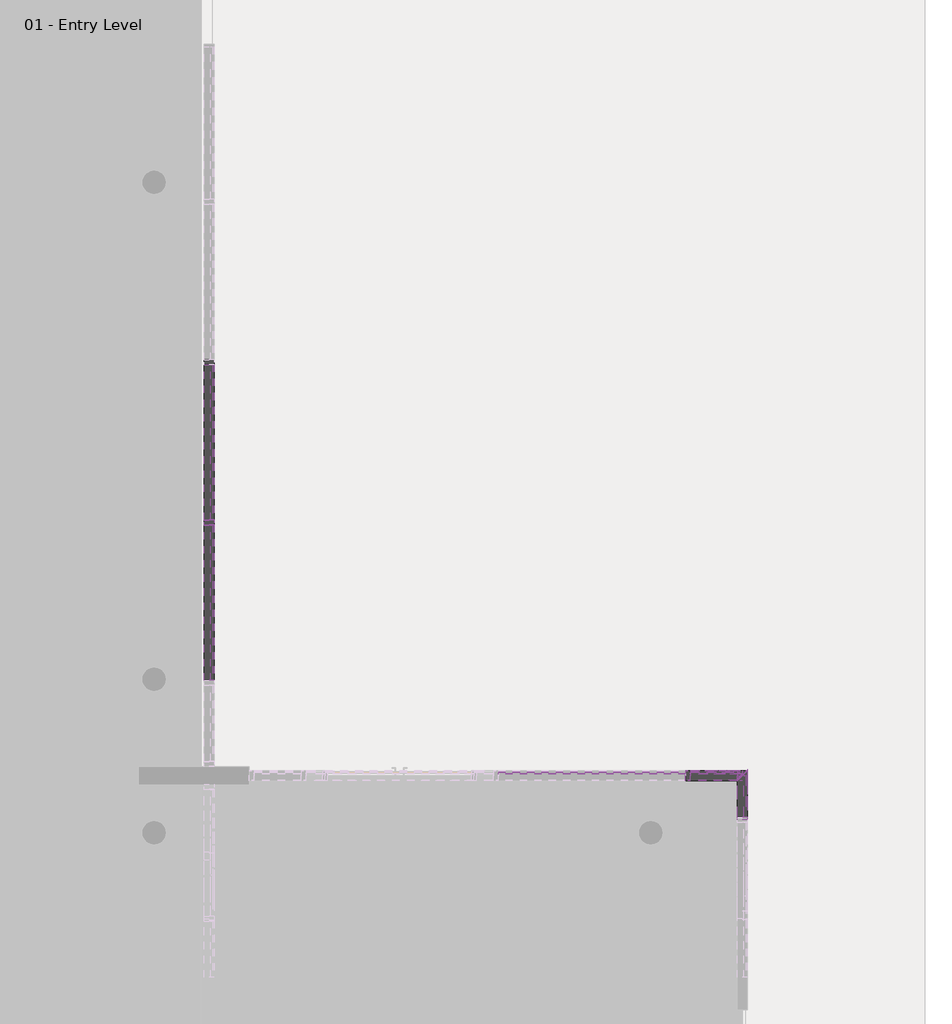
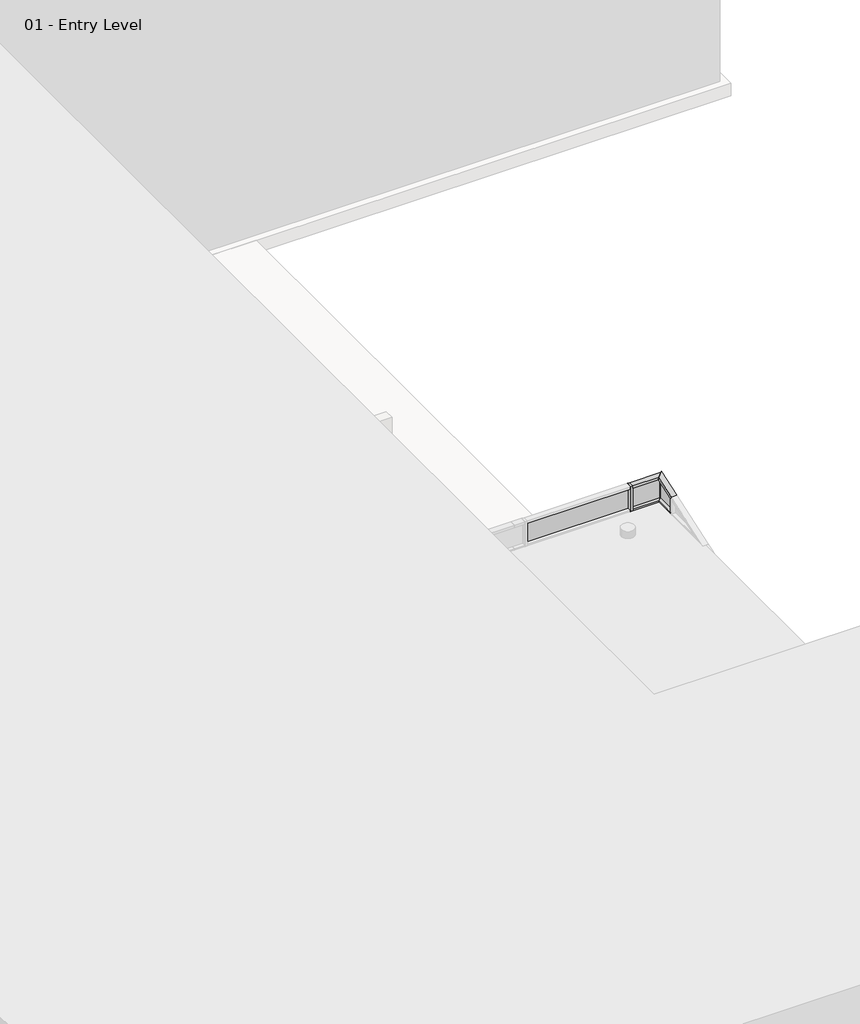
# One storey, part 17 of 34: 78 members, 48 plates.
"""IFC4 building model written with IfcOpenShell, lengths in millimetres."""

from ifc_helpers import new_model, si_unit, origin, place, context, project, spatial, transform, mapped, element, save
from components import member_2b49869a, member_391b434c, member_9e90ae50, member_6e77e263, member_b2bde9e6, member_b5354135, member_1e5b0a81, member_55448455, member_0dd9e943, member_29c8c3b8, member_f6b3c571, member_bb554449, member_5d67b9fc, member_3f1e2ae8, member_80bb9b3a, member_83c59054, system_panel_glazed_1b9d6098, system_panel_glazed_70da479d, system_panel_glazed_1068a10c, system_panel_glazed_a178916c, system_panel_glazed_ee7bb25c, system_panel_glazed_b5016a42, system_panel_glazed_300f1d59, system_panel_glazed_afefc162, system_panel_glazed_fbdf944e, system_panel_glazed_78103c7b

model = new_model("IFC4")

# Units and contexts
model_context = context("Model", 3, world=origin())
ifc_project = project(units=[si_unit("LENGTHUNIT", "METRE", prefix="MILLI")], contexts=[model_context])

# Site, building, storey
site = spatial("IfcSite", under=ifc_project)
building = spatial("IfcBuilding", under=site)
storey = spatial("IfcBuildingStorey", under=building, Name="01 - Entry Level", Elevation=0.0)

# Members
placement = place(None, origin())
member_shape = member_2b49869a(model_context)
element("IfcMember", 1, ObjectType="Rectangular Mullion : 2.5\" x 5\" rectangular", at=placement, inside=storey, context=model_context, shape_type="MappedRepresentation", body=[
    mapped(member_shape, transform((17184.0207476, 25752.35, 9753.6), x_axis=(0.0, 1.0, 0.0), y_axis=(1.0, 0.0, 0.0), z_axis=(0.0, 0.0, -1.0))),
])
member_2_shape = member_391b434c(model_context)
element("IfcMember", 2, ObjectType="Rectangular Mullion : 2.5\" x 5\" rectangular", at=placement, inside=storey, context=model_context, shape_type="MappedRepresentation", body=[
    mapped(member_2_shape, transform((17184.0207476, 25720.6, 10972.8), x_axis=(0.0, 0.0, 1.0), y_axis=(1.0, 0.0, 0.0), z_axis=(0.0, 1.0, 0.0))),
])
element("IfcMember", 3, ObjectType="Rectangular Mullion : 2.5\" x 5\" rectangular", at=placement, inside=storey, context=model_context, shape_type="MappedRepresentation", body=[
    mapped(member_2_shape, transform((17184.0207476, 27752.6, 10972.8), x_axis=(0.0, 0.0, 1.0), y_axis=(1.0, 0.0, 0.0), z_axis=(0.0, 1.0, 0.0))),
])
element("IfcMember", 4, ObjectType="Rectangular Mullion : 2.5\" x 5\" rectangular", at=placement, inside=storey, context=model_context, shape_type="MappedRepresentation", body=[
    mapped(member_2_shape, transform((17184.0207476, 25784.1, 0.0), x_axis=(0.0, 0.0, -1.0), y_axis=(1.0, 0.0, 0.0), z_axis=(0.0, -1.0, 0.0))),
])
element("IfcMember", 5, ObjectType="Rectangular Mullion : 2.5\" x 5\" rectangular", at=placement, inside=storey, context=model_context, shape_type="MappedRepresentation", body=[
    mapped(member_2_shape, transform((17184.0207476, 27816.1, 0.0), x_axis=(0.0, 0.0, -1.0), y_axis=(1.0, 0.0, 0.0), z_axis=(0.0, -1.0, 0.0))),
])
member_3_shape = member_9e90ae50(model_context)
element("IfcMember", 6, ObjectType="Rectangular Mullion : 2.5\" x 5\" rectangular", at=placement, inside=storey, context=model_context, shape_type="MappedRepresentation", body=[
    mapped(member_3_shape, transform((17184.0207476, 25720.6, 1219.2), x_axis=(0.0, 0.0, 1.0), y_axis=(1.0, 0.0, 0.0), z_axis=(0.0, 1.0, 0.0))),
])
element("IfcMember", 7, ObjectType="Rectangular Mullion : 2.5\" x 5\" rectangular", at=placement, inside=storey, context=model_context, shape_type="MappedRepresentation", body=[
    mapped(member_3_shape, transform((17184.0207476, 27752.6, 1219.2), x_axis=(0.0, 0.0, 1.0), y_axis=(1.0, 0.0, 0.0), z_axis=(0.0, 1.0, 0.0))),
])
element("IfcMember", 8, ObjectType="Rectangular Mullion : 2.5\" x 5\" rectangular", at=placement, inside=storey, context=model_context, shape_type="MappedRepresentation", body=[
    mapped(member_3_shape, transform((17184.0207476, 25720.6, 2438.4), x_axis=(0.0, 0.0, 1.0), y_axis=(1.0, 0.0, 0.0), z_axis=(0.0, 1.0, 0.0))),
])
element("IfcMember", 9, ObjectType="Rectangular Mullion : 2.5\" x 5\" rectangular", at=placement, inside=storey, context=model_context, shape_type="MappedRepresentation", body=[
    mapped(member_3_shape, transform((17184.0207476, 27752.6, 2438.4), x_axis=(0.0, 0.0, 1.0), y_axis=(1.0, 0.0, 0.0), z_axis=(0.0, 1.0, 0.0))),
])
element("IfcMember", 10, ObjectType="Rectangular Mullion : 2.5\" x 5\" rectangular", at=placement, inside=storey, context=model_context, shape_type="MappedRepresentation", body=[
    mapped(member_3_shape, transform((17184.0207476, 25720.6, 3657.6), x_axis=(0.0, 0.0, 1.0), y_axis=(1.0, 0.0, 0.0), z_axis=(0.0, 1.0, 0.0))),
])
element("IfcMember", 11, ObjectType="Rectangular Mullion : 2.5\" x 5\" rectangular", at=placement, inside=storey, context=model_context, shape_type="MappedRepresentation", body=[
    mapped(member_3_shape, transform((17184.0207476, 27752.6, 3657.6), x_axis=(0.0, 0.0, 1.0), y_axis=(1.0, 0.0, 0.0), z_axis=(0.0, 1.0, 0.0))),
])
element("IfcMember", 12, ObjectType="Rectangular Mullion : 2.5\" x 5\" rectangular", at=placement, inside=storey, context=model_context, shape_type="MappedRepresentation", body=[
    mapped(member_3_shape, transform((17184.0207476, 25720.6, 4876.8), x_axis=(0.0, 0.0, 1.0), y_axis=(1.0, 0.0, 0.0), z_axis=(0.0, 1.0, 0.0))),
])
element("IfcMember", 13, ObjectType="Rectangular Mullion : 2.5\" x 5\" rectangular", at=placement, inside=storey, context=model_context, shape_type="MappedRepresentation", body=[
    mapped(member_3_shape, transform((17184.0207476, 27752.6, 4876.8), x_axis=(0.0, 0.0, 1.0), y_axis=(1.0, 0.0, 0.0), z_axis=(0.0, 1.0, 0.0))),
])
element("IfcMember", 14, ObjectType="Rectangular Mullion : 2.5\" x 5\" rectangular", at=placement, inside=storey, context=model_context, shape_type="MappedRepresentation", body=[
    mapped(member_3_shape, transform((17184.0207476, 25720.6, 6096.0), x_axis=(0.0, 0.0, 1.0), y_axis=(1.0, 0.0, 0.0), z_axis=(0.0, 1.0, 0.0))),
])
element("IfcMember", 15, ObjectType="Rectangular Mullion : 2.5\" x 5\" rectangular", at=placement, inside=storey, context=model_context, shape_type="MappedRepresentation", body=[
    mapped(member_3_shape, transform((17184.0207476, 27752.6, 6096.0), x_axis=(0.0, 0.0, 1.0), y_axis=(1.0, 0.0, 0.0), z_axis=(0.0, 1.0, 0.0))),
])
element("IfcMember", 16, ObjectType="Rectangular Mullion : 2.5\" x 5\" rectangular", at=placement, inside=storey, context=model_context, shape_type="MappedRepresentation", body=[
    mapped(member_3_shape, transform((17184.0207476, 25720.6, 7315.2), x_axis=(0.0, 0.0, 1.0), y_axis=(1.0, 0.0, 0.0), z_axis=(0.0, 1.0, 0.0))),
])
element("IfcMember", 17, ObjectType="Rectangular Mullion : 2.5\" x 5\" rectangular", at=placement, inside=storey, context=model_context, shape_type="MappedRepresentation", body=[
    mapped(member_3_shape, transform((17184.0207476, 27752.6, 7315.2), x_axis=(0.0, 0.0, 1.0), y_axis=(1.0, 0.0, 0.0), z_axis=(0.0, 1.0, 0.0))),
])
element("IfcMember", 18, ObjectType="Rectangular Mullion : 2.5\" x 5\" rectangular", at=placement, inside=storey, context=model_context, shape_type="MappedRepresentation", body=[
    mapped(member_3_shape, transform((17184.0207476, 25720.6, 8534.4), x_axis=(0.0, 0.0, 1.0), y_axis=(1.0, 0.0, 0.0), z_axis=(0.0, 1.0, 0.0))),
])
element("IfcMember", 19, ObjectType="Rectangular Mullion : 2.5\" x 5\" rectangular", at=placement, inside=storey, context=model_context, shape_type="MappedRepresentation", body=[
    mapped(member_3_shape, transform((17184.0207476, 27752.6, 8534.4), x_axis=(0.0, 0.0, 1.0), y_axis=(1.0, 0.0, 0.0), z_axis=(0.0, 1.0, 0.0))),
])
element("IfcMember", 20, ObjectType="Rectangular Mullion : 2.5\" x 5\" rectangular", at=placement, inside=storey, context=model_context, shape_type="MappedRepresentation", body=[
    mapped(member_3_shape, transform((17184.0207476, 25720.6, 9753.6), x_axis=(0.0, 0.0, 1.0), y_axis=(1.0, 0.0, 0.0), z_axis=(0.0, 1.0, 0.0))),
])
element("IfcMember", 21, ObjectType="Rectangular Mullion : 2.5\" x 5\" rectangular", at=placement, inside=storey, context=model_context, shape_type="MappedRepresentation", body=[
    mapped(member_3_shape, transform((17184.0207476, 27752.6, 9753.6), x_axis=(0.0, 0.0, 1.0), y_axis=(1.0, 0.0, 0.0), z_axis=(0.0, 1.0, 0.0))),
])
element("IfcMember", 22, ObjectType="Rectangular Mullion : 2.5\" x 5\" rectangular", at=placement, inside=storey, context=model_context, shape_type="MappedRepresentation", body=[
    mapped(member_shape, transform((17184.0207476, 25752.35, 0.0), x_axis=(0.0, 1.0, 0.0), y_axis=(1.0, 0.0, 0.0), z_axis=(0.0, 0.0, -1.0))),
])
element("IfcMember", 23, ObjectType="Rectangular Mullion : 2.5\" x 5\" rectangular", at=placement, inside=storey, context=model_context, shape_type="MappedRepresentation", body=[
    mapped(member_shape, transform((17184.0207476, 27784.35, 0.0), x_axis=(0.0, 1.0, 0.0), y_axis=(1.0, 0.0, 0.0), z_axis=(0.0, 0.0, -1.0))),
])
element("IfcMember", 24, ObjectType="Rectangular Mullion : 2.5\" x 5\" rectangular", at=placement, inside=storey, context=model_context, shape_type="MappedRepresentation", body=[
    mapped(member_shape, transform((17184.0207476, 25752.35, 1219.2), x_axis=(0.0, 1.0, 0.0), y_axis=(1.0, 0.0, 0.0), z_axis=(0.0, 0.0, -1.0))),
])
element("IfcMember", 25, ObjectType="Rectangular Mullion : 2.5\" x 5\" rectangular", at=placement, inside=storey, context=model_context, shape_type="MappedRepresentation", body=[
    mapped(member_shape, transform((17184.0207476, 27784.35, 1219.2), x_axis=(0.0, 1.0, 0.0), y_axis=(1.0, 0.0, 0.0), z_axis=(0.0, 0.0, -1.0))),
])
element("IfcMember", 26, ObjectType="Rectangular Mullion : 2.5\" x 5\" rectangular", at=placement, inside=storey, context=model_context, shape_type="MappedRepresentation", body=[
    mapped(member_shape, transform((17184.0207476, 25752.35, 2438.4), x_axis=(0.0, 1.0, 0.0), y_axis=(1.0, 0.0, 0.0), z_axis=(0.0, 0.0, -1.0))),
])
element("IfcMember", 27, ObjectType="Rectangular Mullion : 2.5\" x 5\" rectangular", at=placement, inside=storey, context=model_context, shape_type="MappedRepresentation", body=[
    mapped(member_shape, transform((17184.0207476, 27784.35, 2438.4), x_axis=(0.0, 1.0, 0.0), y_axis=(1.0, 0.0, 0.0), z_axis=(0.0, 0.0, -1.0))),
])
element("IfcMember", 28, ObjectType="Rectangular Mullion : 2.5\" x 5\" rectangular", at=placement, inside=storey, context=model_context, shape_type="MappedRepresentation", body=[
    mapped(member_shape, transform((17184.0207476, 25752.35, 3657.6), x_axis=(0.0, 1.0, 0.0), y_axis=(1.0, 0.0, 0.0), z_axis=(0.0, 0.0, -1.0))),
])
element("IfcMember", 29, ObjectType="Rectangular Mullion : 2.5\" x 5\" rectangular", at=placement, inside=storey, context=model_context, shape_type="MappedRepresentation", body=[
    mapped(member_shape, transform((17184.0207476, 27784.35, 3657.6), x_axis=(0.0, 1.0, 0.0), y_axis=(1.0, 0.0, 0.0), z_axis=(0.0, 0.0, -1.0))),
])
element("IfcMember", 30, ObjectType="Rectangular Mullion : 2.5\" x 5\" rectangular", at=placement, inside=storey, context=model_context, shape_type="MappedRepresentation", body=[
    mapped(member_shape, transform((17184.0207476, 25752.35, 4876.8), x_axis=(0.0, 1.0, 0.0), y_axis=(1.0, 0.0, 0.0), z_axis=(0.0, 0.0, -1.0))),
])
element("IfcMember", 31, ObjectType="Rectangular Mullion : 2.5\" x 5\" rectangular", at=placement, inside=storey, context=model_context, shape_type="MappedRepresentation", body=[
    mapped(member_shape, transform((17184.0207476, 27784.35, 4876.8), x_axis=(0.0, 1.0, 0.0), y_axis=(1.0, 0.0, 0.0), z_axis=(0.0, 0.0, -1.0))),
])
element("IfcMember", 32, ObjectType="Rectangular Mullion : 2.5\" x 5\" rectangular", at=placement, inside=storey, context=model_context, shape_type="MappedRepresentation", body=[
    mapped(member_shape, transform((17184.0207476, 25752.35, 6096.0), x_axis=(0.0, 1.0, 0.0), y_axis=(1.0, 0.0, 0.0), z_axis=(0.0, 0.0, -1.0))),
])
element("IfcMember", 33, ObjectType="Rectangular Mullion : 2.5\" x 5\" rectangular", at=placement, inside=storey, context=model_context, shape_type="MappedRepresentation", body=[
    mapped(member_shape, transform((17184.0207476, 27784.35, 6096.0), x_axis=(0.0, 1.0, 0.0), y_axis=(1.0, 0.0, 0.0), z_axis=(0.0, 0.0, -1.0))),
])
element("IfcMember", 34, ObjectType="Rectangular Mullion : 2.5\" x 5\" rectangular", at=placement, inside=storey, context=model_context, shape_type="MappedRepresentation", body=[
    mapped(member_shape, transform((17184.0207476, 25752.35, 7315.2), x_axis=(0.0, 1.0, 0.0), y_axis=(1.0, 0.0, 0.0), z_axis=(0.0, 0.0, -1.0))),
])
element("IfcMember", 35, ObjectType="Rectangular Mullion : 2.5\" x 5\" rectangular", at=placement, inside=storey, context=model_context, shape_type="MappedRepresentation", body=[
    mapped(member_shape, transform((17184.0207476, 27784.35, 7315.2), x_axis=(0.0, 1.0, 0.0), y_axis=(1.0, 0.0, 0.0), z_axis=(0.0, 0.0, -1.0))),
])
element("IfcMember", 36, ObjectType="Rectangular Mullion : 2.5\" x 5\" rectangular", at=placement, inside=storey, context=model_context, shape_type="MappedRepresentation", body=[
    mapped(member_shape, transform((17184.0207476, 25752.35, 8534.4), x_axis=(0.0, 1.0, 0.0), y_axis=(1.0, 0.0, 0.0), z_axis=(0.0, 0.0, -1.0))),
])
element("IfcMember", 37, ObjectType="Rectangular Mullion : 2.5\" x 5\" rectangular", at=placement, inside=storey, context=model_context, shape_type="MappedRepresentation", body=[
    mapped(member_shape, transform((17184.0207476, 27784.35, 8534.4), x_axis=(0.0, 1.0, 0.0), y_axis=(1.0, 0.0, 0.0), z_axis=(0.0, 0.0, -1.0))),
])
member_4_shape = member_6e77e263(model_context)
element("IfcMember", 38, ObjectType="Rectangular Mullion : 2.5\" x 5\" rectangular", at=placement, inside=storey, context=model_context, shape_type="MappedRepresentation", body=[
    mapped(member_4_shape, transform((23256.3615197, 22545.6, 0.0), x_axis=(-1.0, 0.0, 0.0), y_axis=(0.0, 1.0, 0.0), z_axis=(0.0, 0.0, -1.0))),
])
element("IfcMember", 39, ObjectType="Rectangular Mullion : 2.5\" x 5\" rectangular", at=placement, inside=storey, context=model_context, shape_type="MappedRepresentation", body=[
    mapped(member_4_shape, transform((23256.3615197, 22545.6, 609.6), x_axis=(-1.0, 0.0, 0.0), y_axis=(0.0, 1.0, 0.0), z_axis=(0.0, 0.0, -1.0))),
])
element("IfcMember", 40, ObjectType="Rectangular Mullion : 2.5\" x 5\" rectangular", at=placement, inside=storey, context=model_context, shape_type="MappedRepresentation", body=[
    mapped(member_4_shape, transform((23256.3615197, 22545.6, 1219.2), x_axis=(-1.0, 0.0, 0.0), y_axis=(0.0, 1.0, 0.0), z_axis=(0.0, 0.0, -1.0))),
])
element("IfcMember", 41, ObjectType="Rectangular Mullion : 2.5\" x 5\" rectangular", at=placement, inside=storey, context=model_context, shape_type="MappedRepresentation", body=[
    mapped(member_4_shape, transform((23256.3615197, 22545.6, 2438.4), x_axis=(-1.0, 0.0, 0.0), y_axis=(0.0, 1.0, 0.0), z_axis=(0.0, 0.0, -1.0))),
])
element("IfcMember", 42, ObjectType="Rectangular Mullion : 2.5\" x 5\" rectangular", at=placement, inside=storey, context=model_context, shape_type="MappedRepresentation", body=[
    mapped(member_4_shape, transform((23256.3615197, 22545.6, 3048.0), x_axis=(-1.0, 0.0, 0.0), y_axis=(0.0, 1.0, 0.0), z_axis=(0.0, 0.0, -1.0))),
])
element("IfcMember", 43, ObjectType="Rectangular Mullion : 2.5\" x 5\" rectangular", at=placement, inside=storey, context=model_context, shape_type="MappedRepresentation", body=[
    mapped(member_4_shape, transform((23256.3615197, 22545.6, 3657.6), x_axis=(-1.0, 0.0, 0.0), y_axis=(0.0, 1.0, 0.0), z_axis=(0.0, 0.0, -1.0))),
])
element("IfcMember", 44, ObjectType="Rectangular Mullion : 2.5\" x 5\" rectangular", at=placement, inside=storey, context=model_context, shape_type="MappedRepresentation", body=[
    mapped(member_4_shape, transform((23256.3615197, 22545.6, 4267.2), x_axis=(-1.0, 0.0, 0.0), y_axis=(0.0, 1.0, 0.0), z_axis=(0.0, 0.0, -1.0))),
])
element("IfcMember", 45, ObjectType="Rectangular Mullion : 2.5\" x 5\" rectangular", at=placement, inside=storey, context=model_context, shape_type="MappedRepresentation", body=[
    mapped(member_4_shape, transform((23256.3615197, 22545.6, 4876.8), x_axis=(-1.0, 0.0, 0.0), y_axis=(0.0, 1.0, 0.0), z_axis=(0.0, 0.0, -1.0))),
])
element("IfcMember", 46, ObjectType="Rectangular Mullion : 2.5\" x 5\" rectangular", at=placement, inside=storey, context=model_context, shape_type="MappedRepresentation", body=[
    mapped(member_4_shape, transform((23256.3615197, 22545.6, 5486.4), x_axis=(-1.0, 0.0, 0.0), y_axis=(0.0, 1.0, 0.0), z_axis=(0.0, 0.0, -1.0))),
])
element("IfcMember", 47, ObjectType="Rectangular Mullion : 2.5\" x 5\" rectangular", at=placement, inside=storey, context=model_context, shape_type="MappedRepresentation", body=[
    mapped(member_4_shape, transform((23256.3615197, 22545.6, 6096.0), x_axis=(-1.0, 0.0, 0.0), y_axis=(0.0, 1.0, 0.0), z_axis=(0.0, 0.0, -1.0))),
])
member_5_shape = member_b2bde9e6(model_context)
element("IfcMember", 48, ObjectType="Rectangular Mullion : 2.5\" x 5\" rectangular", at=placement, inside=storey, context=model_context, shape_type="MappedRepresentation", body=[
    mapped(member_5_shape, transform((23224.6115197, 22545.6, 0.0), x_axis=(0.0, 0.0, -1.0), y_axis=(0.0, 1.0, 0.0), z_axis=(1.0, 0.0, 0.0))),
])
member_6_shape = member_b5354135(model_context)
element("IfcMember", 49, ObjectType="Rectangular Mullion : 2.5\" x 5\" rectangular", at=placement, inside=storey, context=model_context, shape_type="MappedRepresentation", body=[
    mapped(member_6_shape, transform((23288.1115197, 22545.6, 1828.8), x_axis=(0.0, 0.0, 1.0), y_axis=(0.0, 1.0, 0.0), z_axis=(-1.0, 0.0, 0.0))),
])
element("IfcMember", 50, ObjectType="Rectangular Mullion : 2.5\" x 5\" rectangular", at=placement, inside=storey, context=model_context, shape_type="MappedRepresentation", body=[
    mapped(member_4_shape, transform((23256.3615197, 22545.6, 6705.6), x_axis=(-1.0, 0.0, 0.0), y_axis=(0.0, 1.0, 0.0), z_axis=(0.0, 0.0, -1.0))),
])
member_7_shape = member_1e5b0a81(model_context)
element("IfcMember", 51, ObjectType="Rectangular Mullion : 2.5\" x 5\" rectangular", at=placement, inside=storey, context=model_context, shape_type="MappedRepresentation", body=[
    mapped(member_7_shape, transform((23947.0115197, 22545.6, 0.0), x_axis=(0.0, 0.0, -1.0), y_axis=(0.0, 1.0, 0.0), z_axis=(1.0, 0.0, 0.0))),
])
member_8_shape = member_55448455(model_context)
element("IfcMember", 52, ObjectType="Rectangular Mullion : 2.5\" x 5\" rectangular", at=placement, inside=storey, context=model_context, shape_type="MappedRepresentation", body=[
    mapped(member_8_shape, transform((23947.0115197, 22018.55, 0.0), x_axis=(0.0, 0.0, -1.0), y_axis=(1.0, 0.0, 0.0), z_axis=(0.0, -1.0, 0.0))),
])
member_9_shape = member_0dd9e943(model_context)
element("IfcMember", 53, ObjectType="Rectangular Mullion : 2.5\" x 5\" rectangular", at=placement, inside=storey, context=model_context, shape_type="MappedRepresentation", body=[
    mapped(member_9_shape, transform((23288.1115197, 22545.6, 7315.2), x_axis=(0.0, 0.0, 1.0), y_axis=(0.0, 1.0, 0.0), z_axis=(-1.0, 0.0, 0.0))),
])
member_10_shape = member_29c8c3b8(model_context)
element("IfcMember", 54, ObjectType="Rectangular Mullion : 2.5\" x 5\" rectangular", at=placement, inside=storey, context=model_context, shape_type="MappedRepresentation", body=[
    mapped(member_10_shape, transform((23947.0115197, 22545.6, 7315.2), x_axis=(0.0, -0.31622776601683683, 0.9486832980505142), y_axis=(1.0, 0.0, 0.0), z_axis=(0.0, 0.9486832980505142, 0.31622776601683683))),
])
member_11_shape = member_f6b3c571(model_context)
element("IfcMember", 55, ObjectType="Rectangular Mullion : 2.5\" x 5\" rectangular", at=placement, inside=storey, context=model_context, shape_type="MappedRepresentation", body=[
    mapped(member_11_shape, transform((23288.1115197, 22545.6, 609.6), x_axis=(0.0, 0.0, 1.0), y_axis=(0.0, 1.0, 0.0), z_axis=(-1.0, 0.0, 0.0))),
])
element("IfcMember", 56, ObjectType="Rectangular Mullion : 2.5\" x 5\" rectangular", at=placement, inside=storey, context=model_context, shape_type="MappedRepresentation", body=[
    mapped(member_11_shape, transform((23288.1115197, 22545.6, 1219.2), x_axis=(0.0, 0.0, 1.0), y_axis=(0.0, 1.0, 0.0), z_axis=(-1.0, 0.0, 0.0))),
])
element("IfcMember", 57, ObjectType="Rectangular Mullion : 2.5\" x 5\" rectangular", at=placement, inside=storey, context=model_context, shape_type="MappedRepresentation", body=[
    mapped(member_11_shape, transform((23288.1115197, 22545.6, 2438.4), x_axis=(0.0, 0.0, 1.0), y_axis=(0.0, 1.0, 0.0), z_axis=(-1.0, 0.0, 0.0))),
])
element("IfcMember", 58, ObjectType="Rectangular Mullion : 2.5\" x 5\" rectangular", at=placement, inside=storey, context=model_context, shape_type="MappedRepresentation", body=[
    mapped(member_11_shape, transform((23288.1115197, 22545.6, 3048.0), x_axis=(0.0, 0.0, 1.0), y_axis=(0.0, 1.0, 0.0), z_axis=(-1.0, 0.0, 0.0))),
])
element("IfcMember", 59, ObjectType="Rectangular Mullion : 2.5\" x 5\" rectangular", at=placement, inside=storey, context=model_context, shape_type="MappedRepresentation", body=[
    mapped(member_11_shape, transform((23288.1115197, 22545.6, 3657.6), x_axis=(0.0, 0.0, 1.0), y_axis=(0.0, 1.0, 0.0), z_axis=(-1.0, 0.0, 0.0))),
])
element("IfcMember", 60, ObjectType="Rectangular Mullion : 2.5\" x 5\" rectangular", at=placement, inside=storey, context=model_context, shape_type="MappedRepresentation", body=[
    mapped(member_11_shape, transform((23288.1115197, 22545.6, 4267.2), x_axis=(0.0, 0.0, 1.0), y_axis=(0.0, 1.0, 0.0), z_axis=(-1.0, 0.0, 0.0))),
])
element("IfcMember", 61, ObjectType="Rectangular Mullion : 2.5\" x 5\" rectangular", at=placement, inside=storey, context=model_context, shape_type="MappedRepresentation", body=[
    mapped(member_11_shape, transform((23288.1115197, 22545.6, 4876.8), x_axis=(0.0, 0.0, 1.0), y_axis=(0.0, 1.0, 0.0), z_axis=(-1.0, 0.0, 0.0))),
])
element("IfcMember", 62, ObjectType="Rectangular Mullion : 2.5\" x 5\" rectangular", at=placement, inside=storey, context=model_context, shape_type="MappedRepresentation", body=[
    mapped(member_11_shape, transform((23288.1115197, 22545.6, 5486.4), x_axis=(0.0, 0.0, 1.0), y_axis=(0.0, 1.0, 0.0), z_axis=(-1.0, 0.0, 0.0))),
])
element("IfcMember", 63, ObjectType="Rectangular Mullion : 2.5\" x 5\" rectangular", at=placement, inside=storey, context=model_context, shape_type="MappedRepresentation", body=[
    mapped(member_11_shape, transform((23288.1115197, 22545.6, 6096.0), x_axis=(0.0, 0.0, 1.0), y_axis=(0.0, 1.0, 0.0), z_axis=(-1.0, 0.0, 0.0))),
])
element("IfcMember", 64, ObjectType="Rectangular Mullion : 2.5\" x 5\" rectangular", at=placement, inside=storey, context=model_context, shape_type="MappedRepresentation", body=[
    mapped(member_11_shape, transform((23288.1115197, 22545.6, 6705.6), x_axis=(0.0, 0.0, 1.0), y_axis=(0.0, 1.0, 0.0), z_axis=(-1.0, 0.0, 0.0))),
])
member_12_shape = member_bb554449(model_context)
element("IfcMember", 65, ObjectType="Rectangular Mullion : 2.5\" x 5\" rectangular", at=placement, inside=storey, context=model_context, shape_type="MappedRepresentation", body=[
    mapped(member_12_shape, transform((23947.0115197, 22545.6, 609.6), x_axis=(0.0, 0.0, 1.0), y_axis=(1.0, 0.0, 0.0), z_axis=(0.0, 1.0, 0.0))),
])
element("IfcMember", 66, ObjectType="Rectangular Mullion : 2.5\" x 5\" rectangular", at=placement, inside=storey, context=model_context, shape_type="MappedRepresentation", body=[
    mapped(member_12_shape, transform((23947.0115197, 22545.6, 1219.2), x_axis=(0.0, 0.0, 1.0), y_axis=(1.0, 0.0, 0.0), z_axis=(0.0, 1.0, 0.0))),
])
element("IfcMember", 67, ObjectType="Rectangular Mullion : 2.5\" x 5\" rectangular", at=placement, inside=storey, context=model_context, shape_type="MappedRepresentation", body=[
    mapped(member_12_shape, transform((23947.0115197, 22545.6, 3048.0), x_axis=(0.0, 0.0, 1.0), y_axis=(1.0, 0.0, 0.0), z_axis=(0.0, 1.0, 0.0))),
])
element("IfcMember", 68, ObjectType="Rectangular Mullion : 2.5\" x 5\" rectangular", at=placement, inside=storey, context=model_context, shape_type="MappedRepresentation", body=[
    mapped(member_12_shape, transform((23947.0115197, 22545.6, 3657.6), x_axis=(0.0, 0.0, 1.0), y_axis=(1.0, 0.0, 0.0), z_axis=(0.0, 1.0, 0.0))),
])
element("IfcMember", 69, ObjectType="Rectangular Mullion : 2.5\" x 5\" rectangular", at=placement, inside=storey, context=model_context, shape_type="MappedRepresentation", body=[
    mapped(member_12_shape, transform((23947.0115197, 22545.6, 4267.2), x_axis=(0.0, 0.0, 1.0), y_axis=(1.0, 0.0, 0.0), z_axis=(0.0, 1.0, 0.0))),
])
element("IfcMember", 70, ObjectType="Rectangular Mullion : 2.5\" x 5\" rectangular", at=placement, inside=storey, context=model_context, shape_type="MappedRepresentation", body=[
    mapped(member_12_shape, transform((23947.0115197, 22545.6, 4876.8), x_axis=(0.0, 0.0, 1.0), y_axis=(1.0, 0.0, 0.0), z_axis=(0.0, 1.0, 0.0))),
])
element("IfcMember", 71, ObjectType="Rectangular Mullion : 2.5\" x 5\" rectangular", at=placement, inside=storey, context=model_context, shape_type="MappedRepresentation", body=[
    mapped(member_12_shape, transform((23947.0115197, 22545.6, 5486.4), x_axis=(0.0, 0.0, 1.0), y_axis=(1.0, 0.0, 0.0), z_axis=(0.0, 1.0, 0.0))),
])
element("IfcMember", 72, ObjectType="Rectangular Mullion : 2.5\" x 5\" rectangular", at=placement, inside=storey, context=model_context, shape_type="MappedRepresentation", body=[
    mapped(member_12_shape, transform((23947.0115197, 22545.6, 6096.0), x_axis=(0.0, 0.0, 1.0), y_axis=(1.0, 0.0, 0.0), z_axis=(0.0, 1.0, 0.0))),
])
element("IfcMember", 73, ObjectType="Rectangular Mullion : 2.5\" x 5\" rectangular", at=placement, inside=storey, context=model_context, shape_type="MappedRepresentation", body=[
    mapped(member_12_shape, transform((23947.0115197, 22545.6, 6705.6), x_axis=(0.0, 0.0, 1.0), y_axis=(1.0, 0.0, 0.0), z_axis=(0.0, 1.0, 0.0))),
])
member_13_shape = member_5d67b9fc(model_context)
element("IfcMember", 74, ObjectType="Rectangular Mullion : 2.5\" x 5\" rectangular", at=placement, inside=storey, context=model_context, shape_type="MappedRepresentation", body=[
    mapped(member_13_shape, transform((23256.3615197, 22545.6, 2165.35), x_axis=(-1.0, 0.0, 0.0), y_axis=(0.0, 1.0, 0.0), z_axis=(0.0, 0.0, -1.0))),
])
member_14_shape = member_3f1e2ae8(model_context)
element("IfcMember", 75, ObjectType="Rectangular Mullion : 2.5\" x 5\" rectangular", at=placement, inside=storey, context=model_context, shape_type="MappedRepresentation", body=[
    mapped(member_14_shape, transform((23947.0115197, 22545.6, 1828.8), x_axis=(0.0, 0.0, 1.0), y_axis=(1.0, 0.0, 0.0), z_axis=(0.0, 1.0, 0.0))),
])
element("IfcMember", 76, ObjectType="Rectangular Mullion : 2.5\" x 5\" rectangular", at=placement, inside=storey, context=model_context, shape_type="MappedRepresentation", body=[
    mapped(member_14_shape, transform((23947.0115197, 22545.6, 2438.4), x_axis=(0.0, 0.0, 1.0), y_axis=(1.0, 0.0, 0.0), z_axis=(0.0, 1.0, 0.0))),
])
member_15_shape = member_80bb9b3a(model_context)
element("IfcMember", 77, ObjectType="Rectangular Mullion : 2.5\" x 5\" rectangular", at=placement, inside=storey, context=model_context, shape_type="MappedRepresentation", body=[
    mapped(member_15_shape, transform((23256.3615197, 22545.6, 1828.8), x_axis=(-1.0, 0.0, 0.0), y_axis=(0.0, 1.0, 0.0), z_axis=(0.0, 0.0, -1.0))),
])
member_16_shape = member_83c59054(model_context)
element("IfcMember", 78, ObjectType="Rectangular Mullion : 2.5\" x 5\" rectangular", at=placement, inside=storey, context=model_context, shape_type="MappedRepresentation", body=[
    mapped(member_16_shape, transform((23947.0115197, 22545.6, 2165.35), x_axis=(1.0, 0.0, 0.0), y_axis=(0.0, 1.0, 0.0), z_axis=(0.0, 0.0, 1.0))),
])

# Plates
system_panel_glazed_shape = system_panel_glazed_1b9d6098(model_context)
element("IfcPlate", 79, ObjectType="System Panel : Glazed", at=placement, inside=storey, context=model_context, shape_type="MappedRepresentation", body=[
    mapped(system_panel_glazed_shape, transform((17184.0207476, 24736.35, 63.5), x_axis=(0.0, 1.0, 0.0), y_axis=(-1.0, 0.0, 0.0), z_axis=(0.0, 0.0, 1.0))),
])
element("IfcPlate", 80, ObjectType="System Panel : Glazed", at=placement, inside=storey, context=model_context, shape_type="MappedRepresentation", body=[
    mapped(system_panel_glazed_shape, transform((17184.0207476, 26768.35, 63.5), x_axis=(0.0, 1.0, 0.0), y_axis=(-1.0, 0.0, 0.0), z_axis=(0.0, 0.0, 1.0))),
])
element("IfcPlate", 81, ObjectType="System Panel : Glazed", at=placement, inside=storey, context=model_context, shape_type="MappedRepresentation", body=[
    mapped(system_panel_glazed_shape, transform((17184.0207476, 24736.35, 9785.35), x_axis=(0.0, 1.0, 0.0), y_axis=(-1.0, 0.0, 0.0), z_axis=(0.0, 0.0, 1.0))),
])
element("IfcPlate", 82, ObjectType="System Panel : Glazed", at=placement, inside=storey, context=model_context, shape_type="MappedRepresentation", body=[
    mapped(system_panel_glazed_shape, transform((17184.0207476, 26768.35, 9785.35), x_axis=(0.0, 1.0, 0.0), y_axis=(-1.0, 0.0, 0.0), z_axis=(0.0, 0.0, 1.0))),
])
system_panel_glazed_2_shape = system_panel_glazed_70da479d(model_context)
element("IfcPlate", 83, ObjectType="System Panel : Glazed", at=placement, inside=storey, context=model_context, shape_type="MappedRepresentation", body=[
    mapped(system_panel_glazed_2_shape, transform((17184.0207476, 24736.35, 1250.95), x_axis=(0.0, 1.0, 0.0), y_axis=(-1.0, 0.0, 0.0), z_axis=(0.0, 0.0, 1.0))),
])
element("IfcPlate", 84, ObjectType="System Panel : Glazed", at=placement, inside=storey, context=model_context, shape_type="MappedRepresentation", body=[
    mapped(system_panel_glazed_2_shape, transform((17184.0207476, 26768.35, 1250.95), x_axis=(0.0, 1.0, 0.0), y_axis=(-1.0, 0.0, 0.0), z_axis=(0.0, 0.0, 1.0))),
])
element("IfcPlate", 85, ObjectType="System Panel : Glazed", at=placement, inside=storey, context=model_context, shape_type="MappedRepresentation", body=[
    mapped(system_panel_glazed_2_shape, transform((17184.0207476, 24736.35, 2470.15), x_axis=(0.0, 1.0, 0.0), y_axis=(-1.0, 0.0, 0.0), z_axis=(0.0, 0.0, 1.0))),
])
element("IfcPlate", 86, ObjectType="System Panel : Glazed", at=placement, inside=storey, context=model_context, shape_type="MappedRepresentation", body=[
    mapped(system_panel_glazed_2_shape, transform((17184.0207476, 26768.35, 2470.15), x_axis=(0.0, 1.0, 0.0), y_axis=(-1.0, 0.0, 0.0), z_axis=(0.0, 0.0, 1.0))),
])
element("IfcPlate", 87, ObjectType="System Panel : Glazed", at=placement, inside=storey, context=model_context, shape_type="MappedRepresentation", body=[
    mapped(system_panel_glazed_2_shape, transform((17184.0207476, 24736.35, 3689.35), x_axis=(0.0, 1.0, 0.0), y_axis=(-1.0, 0.0, 0.0), z_axis=(0.0, 0.0, 1.0))),
])
element("IfcPlate", 88, ObjectType="System Panel : Glazed", at=placement, inside=storey, context=model_context, shape_type="MappedRepresentation", body=[
    mapped(system_panel_glazed_2_shape, transform((17184.0207476, 26768.35, 3689.35), x_axis=(0.0, 1.0, 0.0), y_axis=(-1.0, 0.0, 0.0), z_axis=(0.0, 0.0, 1.0))),
])
element("IfcPlate", 89, ObjectType="System Panel : Glazed", at=placement, inside=storey, context=model_context, shape_type="MappedRepresentation", body=[
    mapped(system_panel_glazed_2_shape, transform((17184.0207476, 24736.35, 4908.55), x_axis=(0.0, 1.0, 0.0), y_axis=(-1.0, 0.0, 0.0), z_axis=(0.0, 0.0, 1.0))),
])
element("IfcPlate", 90, ObjectType="System Panel : Glazed", at=placement, inside=storey, context=model_context, shape_type="MappedRepresentation", body=[
    mapped(system_panel_glazed_2_shape, transform((17184.0207476, 26768.35, 4908.55), x_axis=(0.0, 1.0, 0.0), y_axis=(-1.0, 0.0, 0.0), z_axis=(0.0, 0.0, 1.0))),
])
element("IfcPlate", 91, ObjectType="System Panel : Glazed", at=placement, inside=storey, context=model_context, shape_type="MappedRepresentation", body=[
    mapped(system_panel_glazed_2_shape, transform((17184.0207476, 24736.35, 6127.75), x_axis=(0.0, 1.0, 0.0), y_axis=(-1.0, 0.0, 0.0), z_axis=(0.0, 0.0, 1.0))),
])
element("IfcPlate", 92, ObjectType="System Panel : Glazed", at=placement, inside=storey, context=model_context, shape_type="MappedRepresentation", body=[
    mapped(system_panel_glazed_2_shape, transform((17184.0207476, 26768.35, 6127.75), x_axis=(0.0, 1.0, 0.0), y_axis=(-1.0, 0.0, 0.0), z_axis=(0.0, 0.0, 1.0))),
])
element("IfcPlate", 93, ObjectType="System Panel : Glazed", at=placement, inside=storey, context=model_context, shape_type="MappedRepresentation", body=[
    mapped(system_panel_glazed_2_shape, transform((17184.0207476, 24736.35, 7346.95), x_axis=(0.0, 1.0, 0.0), y_axis=(-1.0, 0.0, 0.0), z_axis=(0.0, 0.0, 1.0))),
])
element("IfcPlate", 94, ObjectType="System Panel : Glazed", at=placement, inside=storey, context=model_context, shape_type="MappedRepresentation", body=[
    mapped(system_panel_glazed_2_shape, transform((17184.0207476, 26768.35, 7346.95), x_axis=(0.0, 1.0, 0.0), y_axis=(-1.0, 0.0, 0.0), z_axis=(0.0, 0.0, 1.0))),
])
element("IfcPlate", 95, ObjectType="System Panel : Glazed", at=placement, inside=storey, context=model_context, shape_type="MappedRepresentation", body=[
    mapped(system_panel_glazed_2_shape, transform((17184.0207476, 24736.35, 8566.15), x_axis=(0.0, 1.0, 0.0), y_axis=(-1.0, 0.0, 0.0), z_axis=(0.0, 0.0, 1.0))),
])
element("IfcPlate", 96, ObjectType="System Panel : Glazed", at=placement, inside=storey, context=model_context, shape_type="MappedRepresentation", body=[
    mapped(system_panel_glazed_2_shape, transform((17184.0207476, 26768.35, 8566.15), x_axis=(0.0, 1.0, 0.0), y_axis=(-1.0, 0.0, 0.0), z_axis=(0.0, 0.0, 1.0))),
])
system_panel_glazed_3_shape = system_panel_glazed_1068a10c(model_context)
element("IfcPlate", 97, ObjectType="System Panel : Glazed", at=placement, inside=storey, context=model_context, shape_type="MappedRepresentation", body=[
    mapped(system_panel_glazed_3_shape, transform((22037.1615197, 22545.6, 6737.35), x_axis=(-1.0, 0.0, 0.0), y_axis=(0.0, -1.0, 0.0), z_axis=(0.0, 0.0, 1.0))),
])
system_panel_glazed_4_shape = system_panel_glazed_a178916c(model_context)
element("IfcPlate", 98, ObjectType="System Panel : Glazed", at=placement, inside=storey, context=model_context, shape_type="MappedRepresentation", body=[
    mapped(system_panel_glazed_4_shape, transform((22037.1615197, 22545.6, 3689.35), x_axis=(-1.0, 0.0, 0.0), y_axis=(0.0, -1.0, 0.0), z_axis=(0.0, 0.0, 1.0))),
])
element("IfcPlate", 99, ObjectType="System Panel : Glazed", at=placement, inside=storey, context=model_context, shape_type="MappedRepresentation", body=[
    mapped(system_panel_glazed_4_shape, transform((22037.1615197, 22545.6, 4298.95), x_axis=(-1.0, 0.0, 0.0), y_axis=(0.0, -1.0, 0.0), z_axis=(0.0, 0.0, 1.0))),
])
element("IfcPlate", 100, ObjectType="System Panel : Glazed", at=placement, inside=storey, context=model_context, shape_type="MappedRepresentation", body=[
    mapped(system_panel_glazed_4_shape, transform((22037.1615197, 22545.6, 4908.55), x_axis=(-1.0, 0.0, 0.0), y_axis=(0.0, -1.0, 0.0), z_axis=(0.0, 0.0, 1.0))),
])
element("IfcPlate", 101, ObjectType="System Panel : Glazed", at=placement, inside=storey, context=model_context, shape_type="MappedRepresentation", body=[
    mapped(system_panel_glazed_4_shape, transform((22037.1615197, 22545.6, 5518.15), x_axis=(-1.0, 0.0, 0.0), y_axis=(0.0, -1.0, 0.0), z_axis=(0.0, 0.0, 1.0))),
])
element("IfcPlate", 102, ObjectType="System Panel : Glazed", at=placement, inside=storey, context=model_context, shape_type="MappedRepresentation", body=[
    mapped(system_panel_glazed_4_shape, transform((22037.1615197, 22545.6, 6127.75), x_axis=(-1.0, 0.0, 0.0), y_axis=(0.0, -1.0, 0.0), z_axis=(0.0, 0.0, 1.0))),
])
system_panel_glazed_5_shape = system_panel_glazed_ee7bb25c(model_context)
element("IfcPlate", 103, ObjectType="System Panel : Glazed", at=placement, inside=storey, context=model_context, shape_type="MappedRepresentation", body=[
    mapped(system_panel_glazed_5_shape, transform((23617.5615197, 22545.6, 63.5), x_axis=(-1.0, 0.0, 0.0), y_axis=(0.0, -1.0, 0.0), z_axis=(0.0, 0.0, 1.0))),
])
element("IfcPlate", 104, ObjectType="System Panel : Glazed", at=placement, inside=storey, context=model_context, shape_type="MappedRepresentation", body=[
    mapped(system_panel_glazed_5_shape, transform((23617.5615197, 22545.6, 6737.35), x_axis=(-1.0, 0.0, 0.0), y_axis=(0.0, -1.0, 0.0), z_axis=(0.0, 0.0, 1.0))),
])
system_panel_glazed_6_shape = system_panel_glazed_b5016a42(model_context)
element("IfcPlate", 105, ObjectType="System Panel : Glazed", at=placement, inside=storey, context=model_context, shape_type="MappedRepresentation", body=[
    mapped(system_panel_glazed_6_shape, transform((23617.5615197, 22545.6, 641.35), x_axis=(-1.0, 0.0, 0.0), y_axis=(0.0, -1.0, 0.0), z_axis=(0.0, 0.0, 1.0))),
])
element("IfcPlate", 106, ObjectType="System Panel : Glazed", at=placement, inside=storey, context=model_context, shape_type="MappedRepresentation", body=[
    mapped(system_panel_glazed_6_shape, transform((23617.5615197, 22545.6, 1250.95), x_axis=(-1.0, 0.0, 0.0), y_axis=(0.0, -1.0, 0.0), z_axis=(0.0, 0.0, 1.0))),
])
element("IfcPlate", 107, ObjectType="System Panel : Glazed", at=placement, inside=storey, context=model_context, shape_type="MappedRepresentation", body=[
    mapped(system_panel_glazed_6_shape, transform((23617.5615197, 22545.6, 2470.15), x_axis=(-1.0, 0.0, 0.0), y_axis=(0.0, -1.0, 0.0), z_axis=(0.0, 0.0, 1.0))),
])
element("IfcPlate", 108, ObjectType="System Panel : Glazed", at=placement, inside=storey, context=model_context, shape_type="MappedRepresentation", body=[
    mapped(system_panel_glazed_6_shape, transform((23617.5615197, 22545.6, 3079.75), x_axis=(-1.0, 0.0, 0.0), y_axis=(0.0, -1.0, 0.0), z_axis=(0.0, 0.0, 1.0))),
])
element("IfcPlate", 109, ObjectType="System Panel : Glazed", at=placement, inside=storey, context=model_context, shape_type="MappedRepresentation", body=[
    mapped(system_panel_glazed_6_shape, transform((23617.5615197, 22545.6, 3689.35), x_axis=(-1.0, 0.0, 0.0), y_axis=(0.0, -1.0, 0.0), z_axis=(0.0, 0.0, 1.0))),
])
element("IfcPlate", 110, ObjectType="System Panel : Glazed", at=placement, inside=storey, context=model_context, shape_type="MappedRepresentation", body=[
    mapped(system_panel_glazed_6_shape, transform((23617.5615197, 22545.6, 4298.95), x_axis=(-1.0, 0.0, 0.0), y_axis=(0.0, -1.0, 0.0), z_axis=(0.0, 0.0, 1.0))),
])
element("IfcPlate", 111, ObjectType="System Panel : Glazed", at=placement, inside=storey, context=model_context, shape_type="MappedRepresentation", body=[
    mapped(system_panel_glazed_6_shape, transform((23617.5615197, 22545.6, 4908.55), x_axis=(-1.0, 0.0, 0.0), y_axis=(0.0, -1.0, 0.0), z_axis=(0.0, 0.0, 1.0))),
])
element("IfcPlate", 112, ObjectType="System Panel : Glazed", at=placement, inside=storey, context=model_context, shape_type="MappedRepresentation", body=[
    mapped(system_panel_glazed_6_shape, transform((23617.5615197, 22545.6, 5518.15), x_axis=(-1.0, 0.0, 0.0), y_axis=(0.0, -1.0, 0.0), z_axis=(0.0, 0.0, 1.0))),
])
element("IfcPlate", 113, ObjectType="System Panel : Glazed", at=placement, inside=storey, context=model_context, shape_type="MappedRepresentation", body=[
    mapped(system_panel_glazed_6_shape, transform((23617.5615197, 22545.6, 6127.75), x_axis=(-1.0, 0.0, 0.0), y_axis=(0.0, -1.0, 0.0), z_axis=(0.0, 0.0, 1.0))),
])
system_panel_glazed_7_shape = system_panel_glazed_300f1d59(model_context)
element("IfcPlate", 114, ObjectType="System Panel : Glazed", at=placement, inside=storey, context=model_context, shape_type="MappedRepresentation", body=[
    mapped(system_panel_glazed_7_shape, transform((23947.0115197, 22282.075, 63.5), x_axis=(0.0, 1.0, 0.0), y_axis=(-1.0, 0.0, 0.0), z_axis=(0.0, 0.0, 1.0))),
])
system_panel_glazed_8_shape = system_panel_glazed_afefc162(model_context)
element("IfcPlate", 115, ObjectType="System Panel : Glazed", at=placement, inside=storey, context=model_context, shape_type="MappedRepresentation", body=[
    mapped(system_panel_glazed_8_shape, transform((23947.0115197, 22282.075, 641.35), x_axis=(0.0, 1.0, 0.0), y_axis=(-1.0, 0.0, 0.0), z_axis=(0.0, 0.0, 1.0))),
])
element("IfcPlate", 116, ObjectType="System Panel : Glazed", at=placement, inside=storey, context=model_context, shape_type="MappedRepresentation", body=[
    mapped(system_panel_glazed_8_shape, transform((23947.0115197, 22282.075, 1250.95), x_axis=(0.0, 1.0, 0.0), y_axis=(-1.0, 0.0, 0.0), z_axis=(0.0, 0.0, 1.0))),
])
element("IfcPlate", 117, ObjectType="System Panel : Glazed", at=placement, inside=storey, context=model_context, shape_type="MappedRepresentation", body=[
    mapped(system_panel_glazed_8_shape, transform((23947.0115197, 22282.075, 1860.55), x_axis=(0.0, 1.0, 0.0), y_axis=(-1.0, 0.0, 0.0), z_axis=(0.0, 0.0, 1.0))),
])
element("IfcPlate", 118, ObjectType="System Panel : Glazed", at=placement, inside=storey, context=model_context, shape_type="MappedRepresentation", body=[
    mapped(system_panel_glazed_8_shape, transform((23947.0115197, 22282.075, 2470.15), x_axis=(0.0, 1.0, 0.0), y_axis=(-1.0, 0.0, 0.0), z_axis=(0.0, 0.0, 1.0))),
])
element("IfcPlate", 119, ObjectType="System Panel : Glazed", at=placement, inside=storey, context=model_context, shape_type="MappedRepresentation", body=[
    mapped(system_panel_glazed_8_shape, transform((23947.0115197, 22282.075, 3079.75), x_axis=(0.0, 1.0, 0.0), y_axis=(-1.0, 0.0, 0.0), z_axis=(0.0, 0.0, 1.0))),
])
element("IfcPlate", 120, ObjectType="System Panel : Glazed", at=placement, inside=storey, context=model_context, shape_type="MappedRepresentation", body=[
    mapped(system_panel_glazed_8_shape, transform((23947.0115197, 22282.075, 3689.35), x_axis=(0.0, 1.0, 0.0), y_axis=(-1.0, 0.0, 0.0), z_axis=(0.0, 0.0, 1.0))),
])
element("IfcPlate", 121, ObjectType="System Panel : Glazed", at=placement, inside=storey, context=model_context, shape_type="MappedRepresentation", body=[
    mapped(system_panel_glazed_8_shape, transform((23947.0115197, 22282.075, 4298.95), x_axis=(0.0, 1.0, 0.0), y_axis=(-1.0, 0.0, 0.0), z_axis=(0.0, 0.0, 1.0))),
])
element("IfcPlate", 122, ObjectType="System Panel : Glazed", at=placement, inside=storey, context=model_context, shape_type="MappedRepresentation", body=[
    mapped(system_panel_glazed_8_shape, transform((23947.0115197, 22282.075, 4908.55), x_axis=(0.0, 1.0, 0.0), y_axis=(-1.0, 0.0, 0.0), z_axis=(0.0, 0.0, 1.0))),
])
element("IfcPlate", 123, ObjectType="System Panel : Glazed", at=placement, inside=storey, context=model_context, shape_type="MappedRepresentation", body=[
    mapped(system_panel_glazed_8_shape, transform((23947.0115197, 22282.075, 5518.15), x_axis=(0.0, 1.0, 0.0), y_axis=(-1.0, 0.0, 0.0), z_axis=(0.0, 0.0, 1.0))),
])
element("IfcPlate", 124, ObjectType="System Panel : Glazed", at=placement, inside=storey, context=model_context, shape_type="MappedRepresentation", body=[
    mapped(system_panel_glazed_8_shape, transform((23947.0115197, 22282.075, 6127.75), x_axis=(0.0, 1.0, 0.0), y_axis=(-1.0, 0.0, 0.0), z_axis=(0.0, 0.0, 1.0))),
])
system_panel_glazed_9_shape = system_panel_glazed_fbdf944e(model_context)
element("IfcPlate", 125, ObjectType="System Panel : Glazed", at=placement, inside=storey, context=model_context, shape_type="MappedRepresentation", body=[
    mapped(system_panel_glazed_9_shape, transform((23947.0115197, 22282.075, 6737.35), x_axis=(0.0, 1.0, 0.0), y_axis=(-1.0, 0.0, 0.0), z_axis=(0.0, 0.0, 1.0))),
])
system_panel_glazed_10_shape = system_panel_glazed_78103c7b(model_context)
element("IfcPlate", 126, ObjectType="System Panel : Glazed", at=placement, inside=storey, context=model_context, shape_type="MappedRepresentation", body=[
    mapped(system_panel_glazed_10_shape, transform((23617.5615197, 22545.6, 1860.55), x_axis=(-1.0, 0.0, 0.0), y_axis=(0.0, -1.0, 0.0), z_axis=(0.0, 0.0, 1.0))),
])

save(model, "model.ifc")
